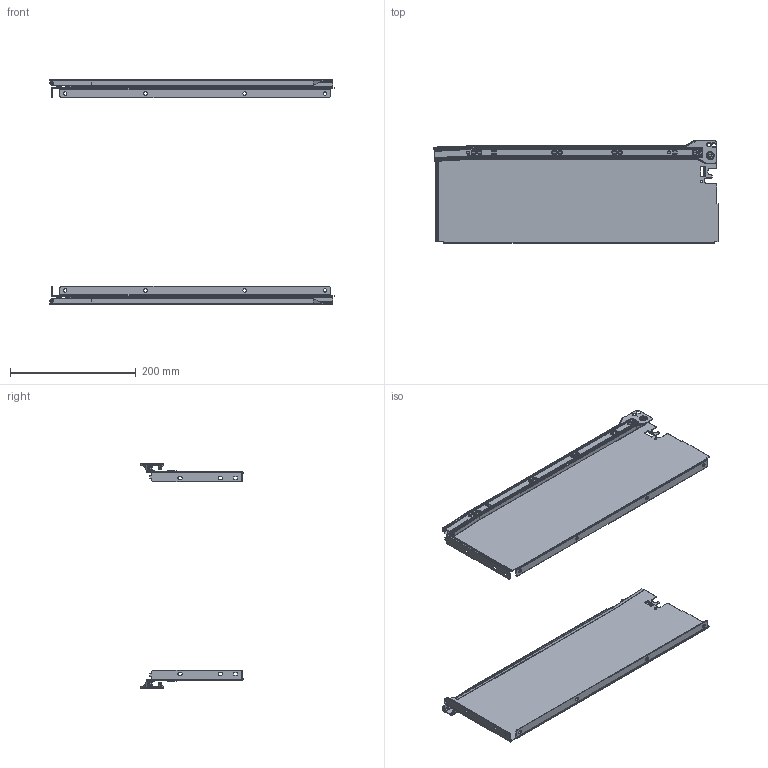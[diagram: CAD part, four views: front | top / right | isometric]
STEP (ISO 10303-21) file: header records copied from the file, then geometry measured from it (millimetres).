
FILE_DESCRIPTION (( 'STEP AP214' ), '1' );
FILE_NAME ('Výška 150 - 450 mm Š + B-286633 a 286640.STEP', '2019-06-19T10:50:04', ( '' ), ( '' ), 'SwSTEP 2.0', 'SolidWorks 2019', '' );
FILE_SCHEMA (( 'AUTOMOTIVE_DESIGN' ));
Length unit declared in the file: millimetre
Products named in the file (5): Výška 150 - 450 mm Š + B-286633 a 286640; DS-132CL-450; DS-132-150DR-450_132-86DL-450; DS-132CR-450; DS-132-150DL-450_132-86DL-450
Assembly tree (4 placements, depth 2):
  Výška 150 - 450 mm Š + B-286633 a 286640
    DS-132-150DL-450_132-86DL-450
    DS-132CR-450
    DS-132CL-450
    DS-132-150DR-450_132-86DL-450
Bounding box: 452.67 x 162.59 x 357 mm (x, y, z)
Volume: 211740.1 mm3; surface area: 391871.9 mm2
Topology: 4 solids, 4 shells, 794 faces, 2092 edges, 1306 vertices
Faces by surface type: plane 416, cylinder 280, cone 52, bspline 30, torus 16
Entity records: 25154 total; most frequent: CARTESIAN_POINT 5311, ORIENTED_EDGE 4168, DIRECTION 4056, EDGE_CURVE 2084, AXIS2_PLACEMENT_3D 1363, LINE 1330, VECTOR 1330, VERTEX_POINT 1306
